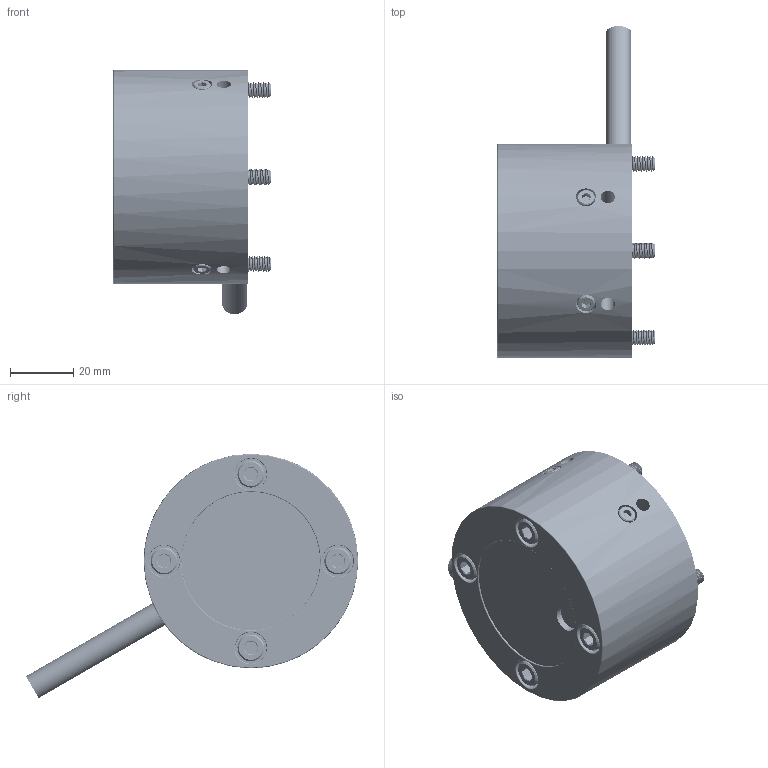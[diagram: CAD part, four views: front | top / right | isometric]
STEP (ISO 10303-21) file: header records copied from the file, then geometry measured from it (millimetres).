
FILE_DESCRIPTION(/* description */ (''),/* implementation_level */ '2;1');
FILE_NAME(/* name */ 'HZ68-K-1939-DE6-31-6C-92.step',/* time_stamp */ '2025-06-24T13:11:29-05:00',/* author */ (''),/* organization */ (''),/* preprocessor_version */ 'ST-DEVELOPER v20.1',/* originating_system */ 'Autodesk Translation Framework v14.10.0.0',/* authorisation */ '');
FILE_SCHEMA (('AUTOMOTIVE_DESIGN { 1 0 10303 214 3 1 1 }'));
Products named in the file (10): HZ68-K-1939-DE6-31-6C-92; SHL-HP68-BLK-DL-R1; DANFOSS MAGNET COVER-PLUG; SHL-HP68-CENTER-BLK-DL; cable; epoxy; 91292A195_18-8 Stainless Steel Socket Head Screw; 91292A027_18-8 Stainless Steel Socket Head Screw; 92015A105_18-8 Stainless Steel Cup-Point Set Screw; 91770A144_Extra-Wide Truss Head Phillips Screws
Assembly tree (19 placements, depth 2):
  HZ68-K-1939-DE6-31-6C-92
    SHL-HP68-BLK-DL-R1
    DANFOSS MAGNET COVER-PLUG
    SHL-HP68-CENTER-BLK-DL
    cable
    epoxy
    91292A195_18-8 Stainless Steel Socket Head Screw  x4
    91292A027_18-8 Stainless Steel Socket Head Screw  x4
    92015A105_18-8 Stainless Steel Cup-Point Set Screw  x4
    91770A144_Extra-Wide Truss Head Phillips Screws  x2
Bounding box: 50 x 105.36 x 77.51 mm (x, y, z)
Volume: 144814.1 mm3; surface area: 51785.4 mm2
Topology: 19 solids, 21 shells, 1741 faces, 4764 edges, 3093 vertices
Faces by surface type: cylinder 1169, plane 225, cone 182, bspline 115, torus 40, sphere 10
Full cylindrical faces by diameter (mm): 2.35 x168, 2.474 x14, 2.529 x68, 2.769 x6, 3 x164, 3.086 x68, 3.5 x4, 3.505 x20, 3.575 x2, 3.961 x104, 4.5 x4, 5 x108, 5.5 x4, 5.8 x4, 6.5 x4, 8 x3, 8.5 x4, 10 x4, 11.9 x2, 13.9 x1, 15 x2, 15.491 x1, 17 x1, 22.606 x1, 43.118 x2, 44 x1, 47 x1, 68 x1
Entity records: 71801 total; most frequent: CARTESIAN_POINT 49125, ORIENTED_EDGE 5430, DIRECTION 3587, EDGE_CURVE 2715, VERTEX_POINT 1777, AXIS2_PLACEMENT_3D 1377, B_SPLINE_CURVE_WITH_KNOTS 1309, EDGE_LOOP 1054
